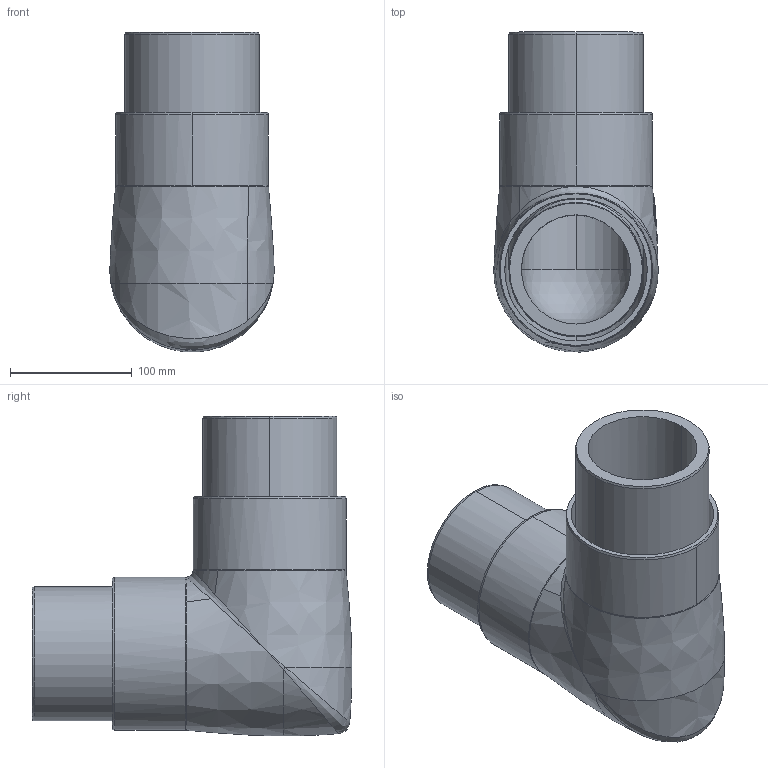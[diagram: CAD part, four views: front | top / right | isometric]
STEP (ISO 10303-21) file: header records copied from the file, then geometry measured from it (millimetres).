
FILE_DESCRIPTION (( 'STEP AP203' ), '1' );
FILE_NAME ('KP_33-125_110SCC.step', '2011-08-08T11:38:00', ( '' ), ( '' ), 'SwSTEP 2.0', 'SolidWorks 2011', '' );
FILE_SCHEMA (( 'CONFIG_CONTROL_DESIGN' ));
Length unit declared in the file: millimetre
Products named in the file (1): KP_33-125_110SCC
Bounding box: 134.58 x 262.39 x 262.39 mm (x, y, z)
Volume: 1809178.4 mm3; surface area: 448347.8 mm2
Topology: 2 solids, 2 shells, 267 faces, 704 edges, 456 vertices
Faces by surface type: plane 153, bspline 67, cylinder 37, cone 8, sphere 2
Entity records: 14592 total; most frequent: CARTESIAN_POINT 9124, ORIENTED_EDGE 1388, DIRECTION 716, EDGE_CURVE 694, VERTEX_POINT 454, EDGE_LOOP 294, B_SPLINE_CURVE_WITH_KNOTS 275, FACE_OUTER_BOUND 267
